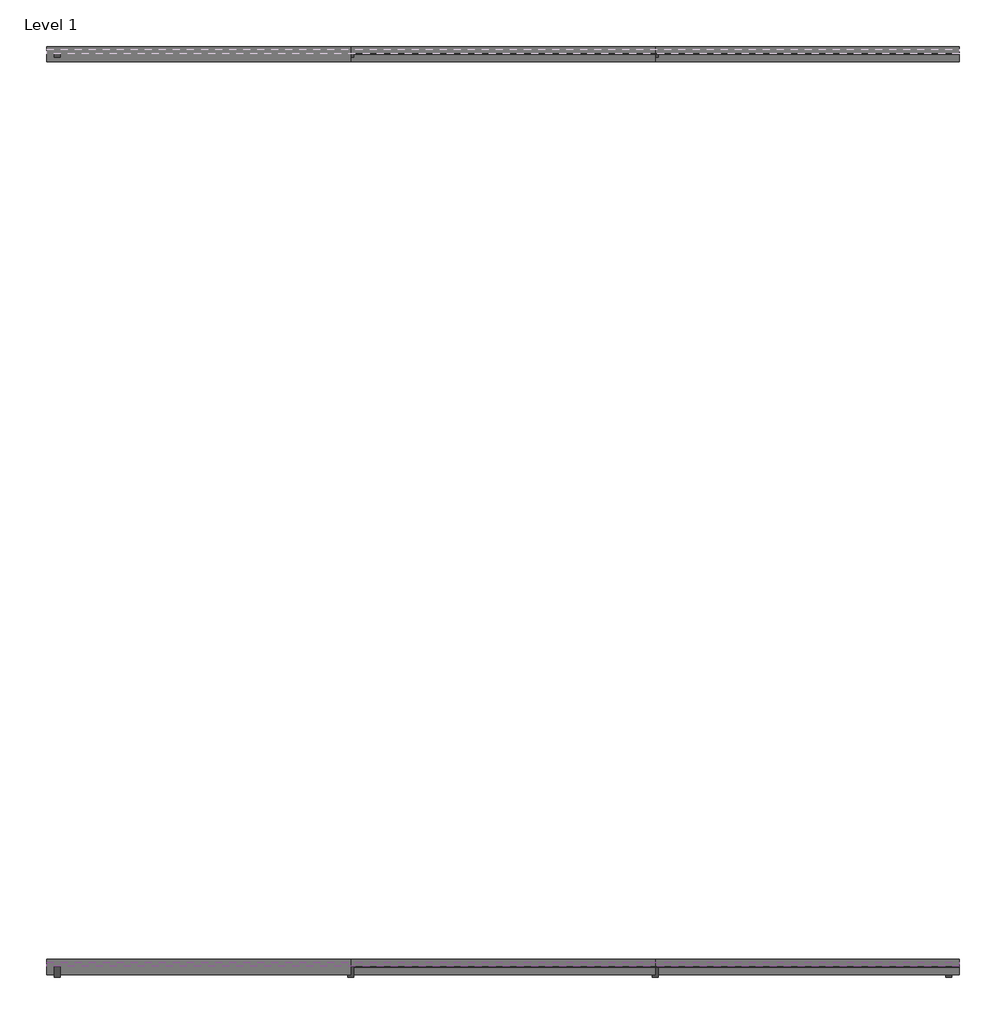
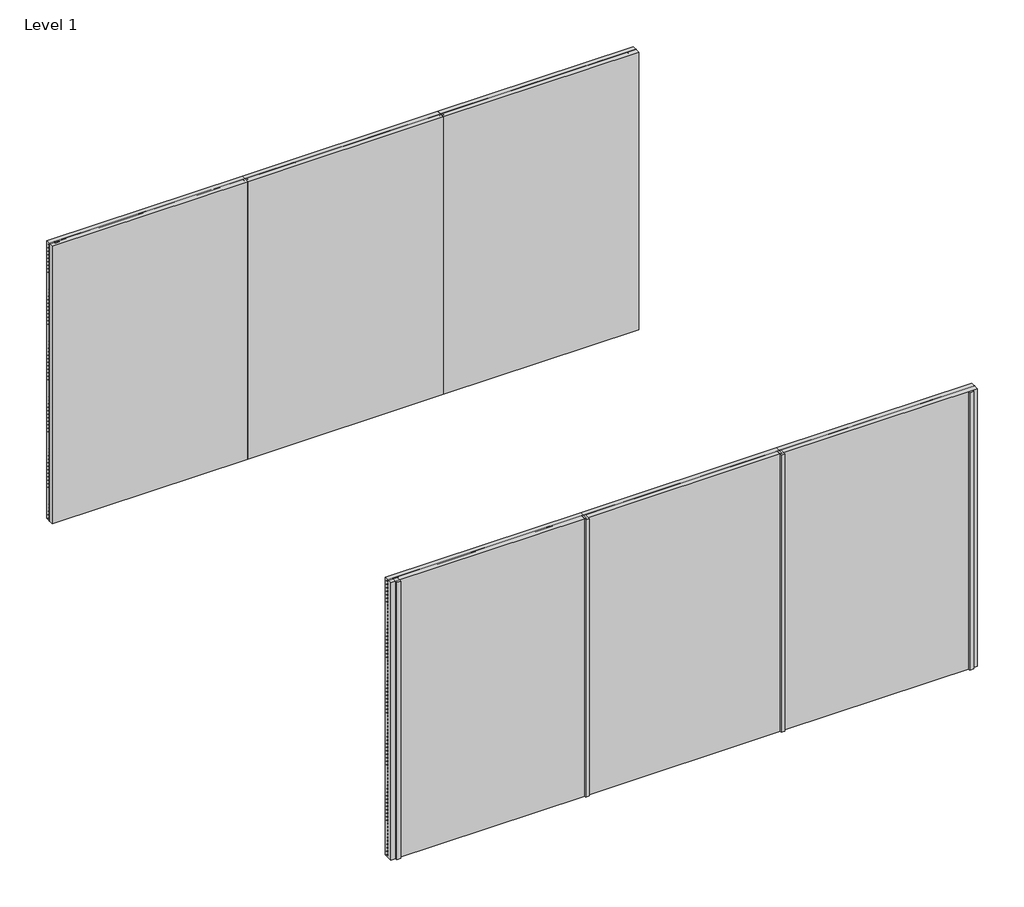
# One storey, part 1 of 2: 74 proxies, 8 members, 8 plates.
"""IFC4 building model written with IfcOpenShell, lengths in millimetres."""

import ifcopenshell
import ifcopenshell.guid

model = None  # the IFC model being written
_history = None  # IfcOwnerHistory: only IFC2X3 demands one
_inside = {}  # id of a spatial element -> (the spatial element, [elements in it])
_under = {}  # id of a project, library or spatial element -> (it, [spatial elements below it])
_declared = {}  # id of a project -> (the project, [libraries it declares])
_typed = {}  # id of a type object -> (the type object, [elements of that type])
_made_of = {}  # id of a material, layer set ... -> (it, [elements and type objects made of it])


def new_model(schema):
    """Start an empty IFC model of exactly this schema.

    Asked for "IFC4X3", IfcOpenShell would pick the latest addendum, in which some entities
    have other attributes; the version numbers below select the first issue.
    IFC2X3 requires an IfcOwnerHistory on every rooted entity: one is made here for all.
    """
    global model, _history
    if schema == "IFC4X3":
        model = ifcopenshell.file(schema_version=(4, 3, 0, 0))
    else:
        model = ifcopenshell.file(schema=schema)
    _inside.clear()
    _under.clear()
    _declared.clear()
    _typed.clear()
    _made_of.clear()
    _history = None
    if model.schema == "IFC2X3":
        org = make("IfcOrganization", Name="unknown")
        user = make(
            "IfcPersonAndOrganization",
            ThePerson=make("IfcPerson", FamilyName="unknown"),
            TheOrganization=org,
        )
        app = make(
            "IfcApplication",
            ApplicationDeveloper=org,
            Version="unknown",
            ApplicationFullName="unknown",
            ApplicationIdentifier="unknown",
        )
        _history = make(
            "IfcOwnerHistory",
            OwningUser=user,
            OwningApplication=app,
            ChangeAction="ADDED",
            CreationDate=0,
        )
    return model


def make(cls, **values):
    """One entity of the class cls with the attributes given. An attribute that is None is left unset."""
    return model.create_entity(
        cls, **{name: value for name, value in values.items() if value is not None}
    )


def rooted(cls, **values):
    """An entity with a GlobalId (a new one), such as an element, a storey or a relation."""
    return make(cls, GlobalId=ifcopenshell.guid.new(), OwnerHistory=_history, **values)


def si_unit(unit_type, name, prefix=None):
    """IfcSIUnit, for example si_unit("LENGTHUNIT", "METRE", prefix="MILLI")."""
    return make("IfcSIUnit", UnitType=unit_type, Prefix=prefix, Name=name)


def assignment(units):
    """IfcUnitAssignment: the units of a project."""
    return None if units is None else make("IfcUnitAssignment", Units=units)


def point(xyz):
    """IfcCartesianPoint."""
    return None if xyz is None else make("IfcCartesianPoint", Coordinates=xyz)


def direction(xyz):
    """IfcDirection."""
    return None if xyz is None else make("IfcDirection", DirectionRatios=xyz)


def frame(location, z_axis=None, x_axis=None):
    """IfcAxis2Placement3D, a coordinate frame: its origin and axes. An axis left out is left unset."""
    return make(
        "IfcAxis2Placement3D",
        Location=point(location),
        Axis=direction(z_axis),
        RefDirection=direction(x_axis),
    )


def origin():
    """The frame at (0, 0, 0) with its axes left unset."""
    return frame((0.0, 0.0, 0.0))


def origin_with_axes():
    """The frame at (0, 0, 0) with the z axis (0, 0, 1) and the x axis (1, 0, 0) written out."""
    return frame((0.0, 0.0, 0.0), z_axis=(0.0, 0.0, 1.0), x_axis=(1.0, 0.0, 0.0))


def place(relative_to, where):
    """IfcLocalPlacement: puts the frame where relative to a parent placement (None: the world)."""
    return make(
        "IfcLocalPlacement", PlacementRelTo=relative_to, RelativePlacement=where
    )


def context(
    kind, dimensions, precision=None, world=None, true_north=None, identifier=None
):
    """IfcGeometricRepresentationContext, for example the 3D "Model" context."""
    return make(
        "IfcGeometricRepresentationContext",
        ContextIdentifier=identifier,
        ContextType=kind,
        CoordinateSpaceDimension=dimensions,
        Precision=precision,
        WorldCoordinateSystem=world,
        TrueNorth=true_north,
    )


def project(units=None, contexts=None):
    """IfcProject with its units and contexts."""
    return rooted(
        "IfcProject",
        Name="project",
        RepresentationContexts=contexts,
        UnitsInContext=assignment(units),
    )


def spatial(cls, under=None, at=None, **own):
    """A site, building, storey or space (cls), placed at a placement, below another one or the project."""
    s = rooted(cls, ObjectPlacement=at, **own)
    if under is not None:
        _under.setdefault(under.id(), (under, []))[1].append(s)
    return s


def polyline(points):
    """IfcPolyline through the points."""
    return make("IfcPolyline", Points=[point(p) for p in points])


def outline(outer, holes=None, kind="AREA"):
    """IfcArbitraryClosedProfileDef: a profile drawn as a closed curve; with holes, ...WithVoids."""
    if holes is None:
        return make("IfcArbitraryClosedProfileDef", ProfileType=kind, OuterCurve=outer)
    return make(
        "IfcArbitraryProfileDefWithVoids",
        ProfileType=kind,
        OuterCurve=outer,
        InnerCurves=holes,
    )


def extrude(swept, where, along, depth):
    """IfcExtrudedAreaSolid: the profile swept, set in the frame where, extruded along a direction by depth."""
    return make(
        "IfcExtrudedAreaSolid",
        SweptArea=swept,
        Position=where,
        ExtrudedDirection=direction(along),
        Depth=depth,
    )


def shape(context_of_items, identifier, shape_type, items):
    """IfcShapeRepresentation: the items that make up one representation, for example the "Body"."""
    return make(
        "IfcShapeRepresentation",
        ContextOfItems=context_of_items,
        RepresentationIdentifier=identifier,
        RepresentationType=shape_type,
        Items=items,
    )


def source(mapping_origin, context_of_items, identifier, shape_type, items):
    """IfcRepresentationMap: a shape defined once, which mapped items show again and again."""
    return make(
        "IfcRepresentationMap",
        MappingOrigin=mapping_origin,
        MappedRepresentation=shape(context_of_items, identifier, shape_type, items),
    )


def transform(
    local_origin,
    x_axis=None,
    y_axis=None,
    z_axis=None,
    scale=None,
    scale2=None,
    scale3=None,
    uniform=True,
):
    """IfcCartesianTransformationOperator3D, or its non-uniform kind. x_axis, y_axis, z_axis: its Axis1, 2, 3."""
    if uniform:
        return make(
            "IfcCartesianTransformationOperator3D",
            Axis1=direction(x_axis),
            Axis2=direction(y_axis),
            LocalOrigin=point(local_origin),
            Scale=scale,
            Axis3=direction(z_axis),
        )
    return make(
        "IfcCartesianTransformationOperator3DnonUniform",
        Axis1=direction(x_axis),
        Axis2=direction(y_axis),
        LocalOrigin=point(local_origin),
        Scale=scale,
        Axis3=direction(z_axis),
        Scale2=scale2,
        Scale3=scale3,
    )


def mapped(mapping_source, mapping_target):
    """IfcMappedItem: shows the shape of a source again, moved by a transform."""
    return make(
        "IfcMappedItem", MappingSource=mapping_source, MappingTarget=mapping_target
    )


def made_of(thing, what):
    """Note that an element or type object is made of a material, layer set ...; save() writes the relation."""
    if what is not None:
        _made_of.setdefault(what.id(), (what, []))[1].append(thing)
    return thing


def element(
    cls,
    number,
    at=None,
    inside=None,
    cuts=None,
    type_object=None,
    material=None,
    context=None,
    identifier="Body",
    shape_type=None,
    held_by="IfcProductDefinitionShape",
    body=None,
    shapes=None,
    **own,
):
    """One element of the class cls, such as IfcWall. Its Tag is "e" and its number.

    at: its placement. inside: the storey or other place that contains it. cuts: it is an
    opening in that element (IfcRelVoidsElement). A single representation is given by context,
    identifier, shape_type and body (its items); several are given by shapes. held_by: the class
    of the entity that holds the representations. save() writes the other relations.
    """
    e = rooted(cls, Tag="e%d" % number, ObjectPlacement=at, **own)
    if body is not None:
        shapes = [shape(context, identifier, shape_type, body)]
    if shapes is not None:
        e.Representation = make(held_by, Representations=shapes)
    if inside is not None:
        _inside.setdefault(inside.id(), (inside, []))[1].append(e)
    if cuts is not None:
        rooted(
            "IfcRelVoidsElement", RelatingBuildingElement=cuts, RelatedOpeningElement=e
        )
    if type_object is not None:
        _typed.setdefault(type_object.id(), (type_object, []))[1].append(e)
    return made_of(e, material)


def aggregate(whole, parts):
    """IfcRelAggregates: a whole, such as a stair, and the parts it consists of."""
    return rooted("IfcRelAggregates", RelatingObject=whole, RelatedObjects=parts)


def save(model, path):
    """Write the relations noted so far, then the file.

    IfcRelAggregates (storeys below a building ...), IfcRelContainedInSpatialStructure (elements
    in a storey), IfcRelDefinesByType, IfcRelAssociatesMaterial and IfcRelDeclares: one each for
    every whole, place, type object, material and project.
    """
    for whole, parts in _under.values():
        aggregate(whole, parts)
    for where, things in _inside.values():
        rooted(
            "IfcRelContainedInSpatialStructure",
            RelatedElements=things,
            RelatingStructure=where,
        )
    for kind, things in _typed.values():
        rooted("IfcRelDefinesByType", RelatedObjects=things, RelatingType=kind)
    for what, things in _made_of.values():
        rooted("IfcRelAssociatesMaterial", RelatedObjects=things, RelatingMaterial=what)
    for by, libraries in _declared.values():
        rooted("IfcRelDeclares", RelatingContext=by, RelatedDefinitions=libraries)
    model.write(path)


def rectangular_mullion_e97d66ff(model_context):
    return source(origin(), model_context, "Body", "SweptSolid", [
        extrude(outline(polyline([(-50.0, 1.0), (-50.0, -20.0), (-90.0, -20.0), (-90.0, 1.0), (-50.0, 1.0)])), frame((0.0, 0.0, -3000.0), z_axis=(0.0, 0.0, 1.0), x_axis=(1.0, 0.0, 0.0)), (0.0, 0.0, 1.0), 3000.0),
    ])


def rectangular_mullion_d5966d96(model_context):
    return source(origin(), model_context, "Body", "SweptSolid", [
        extrude(outline(polyline([(-90.0, 1.0), (-50.0, 1.0), (-50.0, -20.0), (-90.0, -20.0), (-90.0, 1.0)])), frame((0.0, 0.0, -3000.0), z_axis=(0.0, 0.0, 1.0), x_axis=(1.0, 0.0, 0.0)), (0.0, 0.0, 1.0), 3000.0),
    ])


def rectangular_mullion_d1e4c811(model_context):
    return source(origin(), model_context, "Body", "SweptSolid", [
        extrude(outline(polyline([(-50.0, 1.0), (-50.0, -69.0), (-90.0, -69.0), (-90.0, 1.0), (-50.0, 1.0)])), frame((0.0, 0.0, -3000.0), z_axis=(0.0, 0.0, 1.0), x_axis=(1.0, 0.0, 0.0)), (0.0, 0.0, 1.0), 3000.0),
    ])


def rectangular_mullion_6c4a7dfa(model_context):
    return source(origin(), model_context, "Body", "SweptSolid", [
        extrude(outline(polyline([(-90.0, 1.0), (-50.0, 1.0), (-50.0, -69.0), (-90.0, -69.0), (-90.0, 1.0)])), frame((0.0, 0.0, -3000.0), z_axis=(0.0, 0.0, 1.0), x_axis=(1.0, 0.0, 0.0)), (0.0, 0.0, 1.0), 3000.0),
    ])


def rectangular_mullion_a4a4ad38(model_context):
    return source(origin(), model_context, "Body", "SweptSolid", [
        extrude(outline(polyline([(20.0, 1.0), (20.0, -20.0), (-20.0, -20.0), (-20.0, 1.0), (20.0, 1.0)])), frame((0.0, 0.0, -3000.0), z_axis=(0.0, 0.0, 1.0), x_axis=(1.0, 0.0, 0.0)), (0.0, 0.0, 1.0), 3000.0),
    ])


def rectangular_mullion_49e1a669(model_context):
    return source(origin(), model_context, "Body", "SweptSolid", [
        extrude(outline(polyline([(20.0, 1.0), (20.0, -69.0), (-20.0, -69.0), (-20.0, 1.0), (20.0, 1.0)])), frame((0.0, 0.0, -3000.0), z_axis=(0.0, 0.0, 1.0), x_axis=(1.0, 0.0, 0.0)), (0.0, 0.0, 1.0), 3000.0),
    ])


def empty_system_panel_empty_24b1c33f(model_context):
    return source(origin(), model_context, "Body", "SweptSolid", [
        extrude(outline(polyline([(1000.0, -50.0), (-1000.0, -50.0), (-1000.0, 50.0), (1000.0, 50.0), (1000.0, -50.0)])), origin_with_axes(), (0.0, 0.0, 1.0), 3000.0),
    ])


model = new_model("IFC4")

# Units and contexts
model_context = context("Model", 3, world=origin())
ifc_project = project(units=[si_unit("LENGTHUNIT", "METRE", prefix="MILLI")], contexts=[model_context])

# Site, building, storey
site = spatial("IfcSite", under=ifc_project)
building = spatial("IfcBuilding", under=site)
storey = spatial("IfcBuildingStorey", under=building, Name="Level 1", Elevation=0.0)

# Proxies
placement = place(None, origin())
element("IfcBuildingElementProxy", 1, Name="Wall Sweeps", at=placement, inside=storey, context=model_context, shape_type="SweptSolid", body=[
    extrude(outline(polyline([(-7995.0, 3000.0), (-7995.0, 2991.5372214), (-7969.0, 2974.0), (-7969.0, 2961.0), (-7997.0, 2979.8862385), (-7997.0, 3000.0), (-7995.0, 3000.0)])), frame((0.0, 0.0, 0.0), z_axis=(1.0, 0.0, 0.0), x_axis=(0.0, 1.0, 0.0)), (0.0, 0.0, 1.0), 6000.0),
])
element("IfcBuildingElementProxy", 2, Name="Wall Sweeps", at=placement, inside=storey, context=model_context, shape_type="SweptSolid", body=[
    extrude(outline(polyline([(-7995.0, 2962.5), (-7995.0, 2954.0372214), (-7969.0, 2936.5), (-7969.0, 2923.5), (-7997.0, 2942.3862385), (-7997.0, 2962.5), (-7995.0, 2962.5)])), frame((0.0, 0.0, 0.0), z_axis=(1.0, 0.0, 0.0), x_axis=(0.0, 1.0, 0.0)), (0.0, 0.0, 1.0), 6000.0),
])
element("IfcBuildingElementProxy", 3, Name="Wall Sweeps", at=placement, inside=storey, context=model_context, shape_type="SweptSolid", body=[
    extrude(outline(polyline([(-7995.0, 2925.0), (-7995.0, 2916.5372214), (-7969.0, 2899.0), (-7969.0, 2886.0), (-7997.0, 2904.8862385), (-7997.0, 2925.0), (-7995.0, 2925.0)])), frame((0.0, 0.0, 0.0), z_axis=(1.0, 0.0, 0.0), x_axis=(0.0, 1.0, 0.0)), (0.0, 0.0, 1.0), 6000.0),
])
element("IfcBuildingElementProxy", 4, Name="Wall Sweeps", at=placement, inside=storey, context=model_context, shape_type="SweptSolid", body=[
    extrude(outline(polyline([(-7995.0, 2887.5), (-7995.0, 2879.0372214), (-7969.0, 2861.5), (-7969.0, 2848.5), (-7997.0, 2867.3862385), (-7997.0, 2887.5), (-7995.0, 2887.5)])), frame((0.0, 0.0, 0.0), z_axis=(1.0, 0.0, 0.0), x_axis=(0.0, 1.0, 0.0)), (0.0, 0.0, 1.0), 6000.0),
])
element("IfcBuildingElementProxy", 5, Name="Wall Sweeps", at=placement, inside=storey, context=model_context, shape_type="SweptSolid", body=[
    extrude(outline(polyline([(-7995.0, 2850.0), (-7995.0, 2841.5372214), (-7969.0, 2824.0), (-7969.0, 2811.0), (-7997.0, 2829.8862385), (-7997.0, 2850.0), (-7995.0, 2850.0)])), frame((0.0, 0.0, 0.0), z_axis=(1.0, 0.0, 0.0), x_axis=(0.0, 1.0, 0.0)), (0.0, 0.0, 1.0), 6000.0),
])
element("IfcBuildingElementProxy", 6, Name="Wall Sweeps", at=placement, inside=storey, context=model_context, shape_type="SweptSolid", body=[
    extrude(outline(polyline([(-7995.0, 2812.5), (-7995.0, 2804.0372214), (-7969.0, 2786.5), (-7969.0, 2773.5), (-7997.0, 2792.3862385), (-7997.0, 2812.5), (-7995.0, 2812.5)])), frame((0.0, 0.0, 0.0), z_axis=(1.0, 0.0, 0.0), x_axis=(0.0, 1.0, 0.0)), (0.0, 0.0, 1.0), 6000.0),
])
element("IfcBuildingElementProxy", 7, Name="Wall Sweeps", at=placement, inside=storey, context=model_context, shape_type="SweptSolid", body=[
    extrude(outline(polyline([(-7995.0, 2775.0), (-7995.0, 2766.5372214), (-7969.0, 2749.0), (-7969.0, 2736.0), (-7997.0, 2754.8862385), (-7997.0, 2775.0), (-7995.0, 2775.0)])), frame((0.0, 0.0, 0.0), z_axis=(1.0, 0.0, 0.0), x_axis=(0.0, 1.0, 0.0)), (0.0, 0.0, 1.0), 6000.0),
])
element("IfcBuildingElementProxy", 8, Name="Wall Sweeps", at=placement, inside=storey, context=model_context, shape_type="SweptSolid", body=[
    extrude(outline(polyline([(-7995.0, 2737.5), (-7995.0, 2729.0372214), (-7969.0, 2711.5), (-7969.0, 2698.5), (-7997.0, 2717.3862385), (-7997.0, 2737.5), (-7995.0, 2737.5)])), frame((0.0, 0.0, 0.0), z_axis=(1.0, 0.0, 0.0), x_axis=(0.0, 1.0, 0.0)), (0.0, 0.0, 1.0), 6000.0),
])
element("IfcBuildingElementProxy", 9, Name="Wall Sweeps", at=placement, inside=storey, context=model_context, shape_type="SweptSolid", body=[
    extrude(outline(polyline([(-7995.0, 2700.0), (-7995.0, 2691.5372214), (-7969.0, 2674.0), (-7969.0, 2661.0), (-7997.0, 2679.8862385), (-7997.0, 2700.0), (-7995.0, 2700.0)])), frame((0.0, 0.0, 0.0), z_axis=(1.0, 0.0, 0.0), x_axis=(0.0, 1.0, 0.0)), (0.0, 0.0, 1.0), 6000.0),
])
element("IfcBuildingElementProxy", 10, Name="Wall Sweeps", at=placement, inside=storey, context=model_context, shape_type="SweptSolid", body=[
    extrude(outline(polyline([(-7995.0, 2662.5), (-7995.0, 2654.0372214), (-7969.0, 2636.5), (-7969.0, 2623.5), (-7997.0, 2642.3862385), (-7997.0, 2662.5), (-7995.0, 2662.5)])), frame((0.0, 0.0, 0.0), z_axis=(1.0, 0.0, 0.0), x_axis=(0.0, 1.0, 0.0)), (0.0, 0.0, 1.0), 6000.0),
])
element("IfcBuildingElementProxy", 11, Name="Wall Sweeps", at=placement, inside=storey, context=model_context, shape_type="SweptSolid", body=[
    extrude(outline(polyline([(-7995.0, 2625.0), (-7995.0, 2616.5372214), (-7969.0, 2599.0), (-7969.0, 2586.0), (-7997.0, 2604.8862385), (-7997.0, 2625.0), (-7995.0, 2625.0)])), frame((0.0, 0.0, 0.0), z_axis=(1.0, 0.0, 0.0), x_axis=(0.0, 1.0, 0.0)), (0.0, 0.0, 1.0), 6000.0),
])
element("IfcBuildingElementProxy", 12, Name="Wall Sweeps", at=placement, inside=storey, context=model_context, shape_type="SweptSolid", body=[
    extrude(outline(polyline([(-7995.0, 2587.5), (-7995.0, 2579.0372214), (-7969.0, 2561.5), (-7969.0, 2548.5), (-7997.0, 2567.3862385), (-7997.0, 2587.5), (-7995.0, 2587.5)])), frame((0.0, 0.0, 0.0), z_axis=(1.0, 0.0, 0.0), x_axis=(0.0, 1.0, 0.0)), (0.0, 0.0, 1.0), 6000.0),
])
element("IfcBuildingElementProxy", 13, Name="Wall Sweeps", at=placement, inside=storey, context=model_context, shape_type="SweptSolid", body=[
    extrude(outline(polyline([(-7995.0, 2550.0), (-7995.0, 2541.5372214), (-7969.0, 2524.0), (-7969.0, 2511.0), (-7997.0, 2529.8862385), (-7997.0, 2550.0), (-7995.0, 2550.0)])), frame((0.0, 0.0, 0.0), z_axis=(1.0, 0.0, 0.0), x_axis=(0.0, 1.0, 0.0)), (0.0, 0.0, 1.0), 6000.0),
])
element("IfcBuildingElementProxy", 14, Name="Wall Sweeps", at=placement, inside=storey, context=model_context, shape_type="SweptSolid", body=[
    extrude(outline(polyline([(-7995.0, 2512.5), (-7995.0, 2504.0372214), (-7969.0, 2486.5), (-7969.0, 2473.5), (-7997.0, 2492.3862385), (-7997.0, 2512.5), (-7995.0, 2512.5)])), frame((0.0, 0.0, 0.0), z_axis=(1.0, 0.0, 0.0), x_axis=(0.0, 1.0, 0.0)), (0.0, 0.0, 1.0), 6000.0),
])
element("IfcBuildingElementProxy", 15, Name="Wall Sweeps", at=placement, inside=storey, context=model_context, shape_type="SweptSolid", body=[
    extrude(outline(polyline([(-7995.0, 2475.0), (-7995.0, 2466.5372214), (-7969.0, 2449.0), (-7969.0, 2436.0), (-7997.0, 2454.8862385), (-7997.0, 2475.0), (-7995.0, 2475.0)])), frame((0.0, 0.0, 0.0), z_axis=(1.0, 0.0, 0.0), x_axis=(0.0, 1.0, 0.0)), (0.0, 0.0, 1.0), 6000.0),
])
element("IfcBuildingElementProxy", 16, Name="Wall Sweeps", at=placement, inside=storey, context=model_context, shape_type="SweptSolid", body=[
    extrude(outline(polyline([(-7995.0, 2437.5), (-7995.0, 2429.0372214), (-7969.0, 2411.5), (-7969.0, 2398.5), (-7997.0, 2417.3862385), (-7997.0, 2437.5), (-7995.0, 2437.5)])), frame((0.0, 0.0, 0.0), z_axis=(1.0, 0.0, 0.0), x_axis=(0.0, 1.0, 0.0)), (0.0, 0.0, 1.0), 6000.0),
])
element("IfcBuildingElementProxy", 17, Name="Wall Sweeps", at=placement, inside=storey, context=model_context, shape_type="SweptSolid", body=[
    extrude(outline(polyline([(-7995.0, 2400.0), (-7995.0, 2391.5372214), (-7969.0, 2374.0), (-7969.0, 2361.0), (-7997.0, 2379.8862385), (-7997.0, 2400.0), (-7995.0, 2400.0)])), frame((0.0, 0.0, 0.0), z_axis=(1.0, 0.0, 0.0), x_axis=(0.0, 1.0, 0.0)), (0.0, 0.0, 1.0), 6000.0),
])
element("IfcBuildingElementProxy", 18, Name="Wall Sweeps", at=placement, inside=storey, context=model_context, shape_type="SweptSolid", body=[
    extrude(outline(polyline([(-7995.0, 2362.5), (-7995.0, 2354.0372214), (-7969.0, 2336.5), (-7969.0, 2323.5), (-7997.0, 2342.3862385), (-7997.0, 2362.5), (-7995.0, 2362.5)])), frame((0.0, 0.0, 0.0), z_axis=(1.0, 0.0, 0.0), x_axis=(0.0, 1.0, 0.0)), (0.0, 0.0, 1.0), 6000.0),
])
element("IfcBuildingElementProxy", 19, Name="Wall Sweeps", at=placement, inside=storey, context=model_context, shape_type="SweptSolid", body=[
    extrude(outline(polyline([(-7995.0, 2325.0), (-7995.0, 2316.5372214), (-7969.0, 2299.0), (-7969.0, 2286.0), (-7997.0, 2304.8862385), (-7997.0, 2325.0), (-7995.0, 2325.0)])), frame((0.0, 0.0, 0.0), z_axis=(1.0, 0.0, 0.0), x_axis=(0.0, 1.0, 0.0)), (0.0, 0.0, 1.0), 6000.0),
])
element("IfcBuildingElementProxy", 20, Name="Wall Sweeps", at=placement, inside=storey, context=model_context, shape_type="SweptSolid", body=[
    extrude(outline(polyline([(-7995.0, 2287.5), (-7995.0, 2279.0372214), (-7969.0, 2261.5), (-7969.0, 2248.5), (-7997.0, 2267.3862385), (-7997.0, 2287.5), (-7995.0, 2287.5)])), frame((0.0, 0.0, 0.0), z_axis=(1.0, 0.0, 0.0), x_axis=(0.0, 1.0, 0.0)), (0.0, 0.0, 1.0), 6000.0),
])
element("IfcBuildingElementProxy", 21, Name="Wall Sweeps", at=placement, inside=storey, context=model_context, shape_type="SweptSolid", body=[
    extrude(outline(polyline([(-7995.0, 2250.0), (-7995.0, 2241.5372214), (-7969.0, 2224.0), (-7969.0, 2211.0), (-7997.0, 2229.8862385), (-7997.0, 2250.0), (-7995.0, 2250.0)])), frame((0.0, 0.0, 0.0), z_axis=(1.0, 0.0, 0.0), x_axis=(0.0, 1.0, 0.0)), (0.0, 0.0, 1.0), 6000.0),
])
element("IfcBuildingElementProxy", 22, Name="Wall Sweeps", at=placement, inside=storey, context=model_context, shape_type="SweptSolid", body=[
    extrude(outline(polyline([(-7995.0, 2212.5), (-7995.0, 2204.0372214), (-7969.0, 2186.5), (-7969.0, 2173.5), (-7997.0, 2192.3862385), (-7997.0, 2212.5), (-7995.0, 2212.5)])), frame((0.0, 0.0, 0.0), z_axis=(1.0, 0.0, 0.0), x_axis=(0.0, 1.0, 0.0)), (0.0, 0.0, 1.0), 6000.0),
])
element("IfcBuildingElementProxy", 23, Name="Wall Sweeps", at=placement, inside=storey, context=model_context, shape_type="SweptSolid", body=[
    extrude(outline(polyline([(-7995.0, 2175.0), (-7995.0, 2166.5372214), (-7969.0, 2149.0), (-7969.0, 2136.0), (-7997.0, 2154.8862385), (-7997.0, 2175.0), (-7995.0, 2175.0)])), frame((0.0, 0.0, 0.0), z_axis=(1.0, 0.0, 0.0), x_axis=(0.0, 1.0, 0.0)), (0.0, 0.0, 1.0), 6000.0),
])
element("IfcBuildingElementProxy", 24, Name="Wall Sweeps", at=placement, inside=storey, context=model_context, shape_type="SweptSolid", body=[
    extrude(outline(polyline([(-7995.0, 2137.5), (-7995.0, 2129.0372214), (-7969.0, 2111.5), (-7969.0, 2098.5), (-7997.0, 2117.3862385), (-7997.0, 2137.5), (-7995.0, 2137.5)])), frame((0.0, 0.0, 0.0), z_axis=(1.0, 0.0, 0.0), x_axis=(0.0, 1.0, 0.0)), (0.0, 0.0, 1.0), 6000.0),
])
element("IfcBuildingElementProxy", 25, Name="Wall Sweeps", at=placement, inside=storey, context=model_context, shape_type="SweptSolid", body=[
    extrude(outline(polyline([(-7995.0, 2100.0), (-7995.0, 2091.5372214), (-7969.0, 2074.0), (-7969.0, 2061.0), (-7997.0, 2079.8862385), (-7997.0, 2100.0), (-7995.0, 2100.0)])), frame((0.0, 0.0, 0.0), z_axis=(1.0, 0.0, 0.0), x_axis=(0.0, 1.0, 0.0)), (0.0, 0.0, 1.0), 6000.0),
])
element("IfcBuildingElementProxy", 26, Name="Wall Sweeps", at=placement, inside=storey, context=model_context, shape_type="SweptSolid", body=[
    extrude(outline(polyline([(-7995.0, 2062.5), (-7995.0, 2054.0372214), (-7969.0, 2036.5), (-7969.0, 2023.5), (-7997.0, 2042.3862385), (-7997.0, 2062.5), (-7995.0, 2062.5)])), frame((0.0, 0.0, 0.0), z_axis=(1.0, 0.0, 0.0), x_axis=(0.0, 1.0, 0.0)), (0.0, 0.0, 1.0), 6000.0),
])
element("IfcBuildingElementProxy", 27, Name="Wall Sweeps", at=placement, inside=storey, context=model_context, shape_type="SweptSolid", body=[
    extrude(outline(polyline([(-7995.0, 2025.0), (-7995.0, 2016.5372214), (-7969.0, 1999.0), (-7969.0, 1986.0), (-7997.0, 2004.8862385), (-7997.0, 2025.0), (-7995.0, 2025.0)])), frame((0.0, 0.0, 0.0), z_axis=(1.0, 0.0, 0.0), x_axis=(0.0, 1.0, 0.0)), (0.0, 0.0, 1.0), 6000.0),
])
element("IfcBuildingElementProxy", 28, Name="Wall Sweeps", at=placement, inside=storey, context=model_context, shape_type="SweptSolid", body=[
    extrude(outline(polyline([(-7995.0, 1987.5), (-7995.0, 1979.0372214), (-7969.0, 1961.5), (-7969.0, 1948.5), (-7997.0, 1967.3862385), (-7997.0, 1987.5), (-7995.0, 1987.5)])), frame((0.0, 0.0, 0.0), z_axis=(1.0, 0.0, 0.0), x_axis=(0.0, 1.0, 0.0)), (0.0, 0.0, 1.0), 6000.0),
])
element("IfcBuildingElementProxy", 29, Name="Wall Sweeps", at=placement, inside=storey, context=model_context, shape_type="SweptSolid", body=[
    extrude(outline(polyline([(-7995.0, 1950.0), (-7995.0, 1941.5372214), (-7969.0, 1924.0), (-7969.0, 1911.0), (-7997.0, 1929.8862385), (-7997.0, 1950.0), (-7995.0, 1950.0)])), frame((0.0, 0.0, 0.0), z_axis=(1.0, 0.0, 0.0), x_axis=(0.0, 1.0, 0.0)), (0.0, 0.0, 1.0), 6000.0),
])
element("IfcBuildingElementProxy", 30, Name="Wall Sweeps", at=placement, inside=storey, context=model_context, shape_type="SweptSolid", body=[
    extrude(outline(polyline([(-7995.0, 1912.5), (-7995.0, 1904.0372214), (-7969.0, 1886.5), (-7969.0, 1873.5), (-7997.0, 1892.3862385), (-7997.0, 1912.5), (-7995.0, 1912.5)])), frame((0.0, 0.0, 0.0), z_axis=(1.0, 0.0, 0.0), x_axis=(0.0, 1.0, 0.0)), (0.0, 0.0, 1.0), 6000.0),
])
element("IfcBuildingElementProxy", 31, Name="Wall Sweeps", at=placement, inside=storey, context=model_context, shape_type="SweptSolid", body=[
    extrude(outline(polyline([(-7995.0, 1875.0), (-7995.0, 1866.5372214), (-7969.0, 1849.0), (-7969.0, 1836.0), (-7997.0, 1854.8862385), (-7997.0, 1875.0), (-7995.0, 1875.0)])), frame((0.0, 0.0, 0.0), z_axis=(1.0, 0.0, 0.0), x_axis=(0.0, 1.0, 0.0)), (0.0, 0.0, 1.0), 6000.0),
])
element("IfcBuildingElementProxy", 32, Name="Wall Sweeps", at=placement, inside=storey, context=model_context, shape_type="SweptSolid", body=[
    extrude(outline(polyline([(-7995.0, 1837.5), (-7995.0, 1829.0372214), (-7969.0, 1811.5), (-7969.0, 1798.5), (-7997.0, 1817.3862385), (-7997.0, 1837.5), (-7995.0, 1837.5)])), frame((0.0, 0.0, 0.0), z_axis=(1.0, 0.0, 0.0), x_axis=(0.0, 1.0, 0.0)), (0.0, 0.0, 1.0), 6000.0),
])
element("IfcBuildingElementProxy", 33, Name="Wall Sweeps", at=placement, inside=storey, context=model_context, shape_type="SweptSolid", body=[
    extrude(outline(polyline([(-7995.0, 1800.0), (-7995.0, 1791.5372214), (-7969.0, 1774.0), (-7969.0, 1761.0), (-7997.0, 1779.8862385), (-7997.0, 1800.0), (-7995.0, 1800.0)])), frame((0.0, 0.0, 0.0), z_axis=(1.0, 0.0, 0.0), x_axis=(0.0, 1.0, 0.0)), (0.0, 0.0, 1.0), 6000.0),
])
element("IfcBuildingElementProxy", 34, Name="Wall Sweeps", at=placement, inside=storey, context=model_context, shape_type="SweptSolid", body=[
    extrude(outline(polyline([(-7995.0, 1762.5), (-7995.0, 1754.0372214), (-7969.0, 1736.5), (-7969.0, 1723.5), (-7997.0, 1742.3862385), (-7997.0, 1762.5), (-7995.0, 1762.5)])), frame((0.0, 0.0, 0.0), z_axis=(1.0, 0.0, 0.0), x_axis=(0.0, 1.0, 0.0)), (0.0, 0.0, 1.0), 6000.0),
])
element("IfcBuildingElementProxy", 35, Name="Wall Sweeps", at=placement, inside=storey, context=model_context, shape_type="SweptSolid", body=[
    extrude(outline(polyline([(-7995.0, 1725.0), (-7995.0, 1716.5372214), (-7969.0, 1699.0), (-7969.0, 1686.0), (-7997.0, 1704.8862385), (-7997.0, 1725.0), (-7995.0, 1725.0)])), frame((0.0, 0.0, 0.0), z_axis=(1.0, 0.0, 0.0), x_axis=(0.0, 1.0, 0.0)), (0.0, 0.0, 1.0), 6000.0),
])
element("IfcBuildingElementProxy", 36, Name="Wall Sweeps", at=placement, inside=storey, context=model_context, shape_type="SweptSolid", body=[
    extrude(outline(polyline([(-7995.0, 1687.5), (-7995.0, 1679.0372214), (-7969.0, 1661.5), (-7969.0, 1648.5), (-7997.0, 1667.3862385), (-7997.0, 1687.5), (-7995.0, 1687.5)])), frame((0.0, 0.0, 0.0), z_axis=(1.0, 0.0, 0.0), x_axis=(0.0, 1.0, 0.0)), (0.0, 0.0, 1.0), 6000.0),
])
element("IfcBuildingElementProxy", 37, Name="Wall Sweeps", at=placement, inside=storey, context=model_context, shape_type="SweptSolid", body=[
    extrude(outline(polyline([(-7995.0, 1650.0), (-7995.0, 1641.5372214), (-7969.0, 1624.0), (-7969.0, 1611.0), (-7997.0, 1629.8862385), (-7997.0, 1650.0), (-7995.0, 1650.0)])), frame((0.0, 0.0, 0.0), z_axis=(1.0, 0.0, 0.0), x_axis=(0.0, 1.0, 0.0)), (0.0, 0.0, 1.0), 6000.0),
])
element("IfcBuildingElementProxy", 38, Name="Wall Sweeps", at=placement, inside=storey, context=model_context, shape_type="SweptSolid", body=[
    extrude(outline(polyline([(-7995.0, 1612.5), (-7995.0, 1604.0372214), (-7969.0, 1586.5), (-7969.0, 1573.5), (-7997.0, 1592.3862385), (-7997.0, 1612.5), (-7995.0, 1612.5)])), frame((0.0, 0.0, 0.0), z_axis=(1.0, 0.0, 0.0), x_axis=(0.0, 1.0, 0.0)), (0.0, 0.0, 1.0), 6000.0),
])
element("IfcBuildingElementProxy", 39, Name="Wall Sweeps", at=placement, inside=storey, context=model_context, shape_type="SweptSolid", body=[
    extrude(outline(polyline([(-7995.0, 1575.0), (-7995.0, 1566.5372214), (-7969.0, 1549.0), (-7969.0, 1536.0), (-7997.0, 1554.8862385), (-7997.0, 1575.0), (-7995.0, 1575.0)])), frame((0.0, 0.0, 0.0), z_axis=(1.0, 0.0, 0.0), x_axis=(0.0, 1.0, 0.0)), (0.0, 0.0, 1.0), 6000.0),
])
element("IfcBuildingElementProxy", 40, Name="Wall Sweeps", at=placement, inside=storey, context=model_context, shape_type="SweptSolid", body=[
    extrude(outline(polyline([(-7995.0, 1537.5), (-7995.0, 1529.0372214), (-7969.0, 1511.5), (-7969.0, 1498.5), (-7997.0, 1517.3862385), (-7997.0, 1537.5), (-7995.0, 1537.5)])), frame((0.0, 0.0, 0.0), z_axis=(1.0, 0.0, 0.0), x_axis=(0.0, 1.0, 0.0)), (0.0, 0.0, 1.0), 6000.0),
])
element("IfcBuildingElementProxy", 41, Name="Wall Sweeps", at=placement, inside=storey, context=model_context, shape_type="SweptSolid", body=[
    extrude(outline(polyline([(-7995.0, 1500.0), (-7995.0, 1491.5372214), (-7969.0, 1474.0), (-7969.0, 1461.0), (-7997.0, 1479.8862385), (-7997.0, 1500.0), (-7995.0, 1500.0)])), frame((0.0, 0.0, 0.0), z_axis=(1.0, 0.0, 0.0), x_axis=(0.0, 1.0, 0.0)), (0.0, 0.0, 1.0), 6000.0),
])
element("IfcBuildingElementProxy", 42, Name="Wall Sweeps", at=placement, inside=storey, context=model_context, shape_type="SweptSolid", body=[
    extrude(outline(polyline([(-7995.0, 1462.5), (-7995.0, 1454.0372214), (-7969.0, 1436.5), (-7969.0, 1423.5), (-7997.0, 1442.3862385), (-7997.0, 1462.5), (-7995.0, 1462.5)])), frame((0.0, 0.0, 0.0), z_axis=(1.0, 0.0, 0.0), x_axis=(0.0, 1.0, 0.0)), (0.0, 0.0, 1.0), 6000.0),
])
element("IfcBuildingElementProxy", 43, Name="Wall Sweeps", at=placement, inside=storey, context=model_context, shape_type="SweptSolid", body=[
    extrude(outline(polyline([(-7995.0, 1425.0), (-7995.0, 1416.5372214), (-7969.0, 1399.0), (-7969.0, 1386.0), (-7997.0, 1404.8862385), (-7997.0, 1425.0), (-7995.0, 1425.0)])), frame((0.0, 0.0, 0.0), z_axis=(1.0, 0.0, 0.0), x_axis=(0.0, 1.0, 0.0)), (0.0, 0.0, 1.0), 6000.0),
])
element("IfcBuildingElementProxy", 44, Name="Wall Sweeps", at=placement, inside=storey, context=model_context, shape_type="SweptSolid", body=[
    extrude(outline(polyline([(-7995.0, 1387.5), (-7995.0, 1379.0372214), (-7969.0, 1361.5), (-7969.0, 1348.5), (-7997.0, 1367.3862385), (-7997.0, 1387.5), (-7995.0, 1387.5)])), frame((0.0, 0.0, 0.0), z_axis=(1.0, 0.0, 0.0), x_axis=(0.0, 1.0, 0.0)), (0.0, 0.0, 1.0), 6000.0),
])
element("IfcBuildingElementProxy", 45, Name="Wall Sweeps", at=placement, inside=storey, context=model_context, shape_type="SweptSolid", body=[
    extrude(outline(polyline([(-7995.0, 1350.0), (-7995.0, 1341.5372214), (-7969.0, 1324.0), (-7969.0, 1311.0), (-7997.0, 1329.8862385), (-7997.0, 1350.0), (-7995.0, 1350.0)])), frame((0.0, 0.0, 0.0), z_axis=(1.0, 0.0, 0.0), x_axis=(0.0, 1.0, 0.0)), (0.0, 0.0, 1.0), 6000.0),
])
element("IfcBuildingElementProxy", 46, Name="Wall Sweeps", at=placement, inside=storey, context=model_context, shape_type="SweptSolid", body=[
    extrude(outline(polyline([(-7995.0, 1312.5), (-7995.0, 1304.0372214), (-7969.0, 1286.5), (-7969.0, 1273.5), (-7997.0, 1292.3862385), (-7997.0, 1312.5), (-7995.0, 1312.5)])), frame((0.0, 0.0, 0.0), z_axis=(1.0, 0.0, 0.0), x_axis=(0.0, 1.0, 0.0)), (0.0, 0.0, 1.0), 6000.0),
])
element("IfcBuildingElementProxy", 47, Name="Wall Sweeps", at=placement, inside=storey, context=model_context, shape_type="SweptSolid", body=[
    extrude(outline(polyline([(-7995.0, 1275.0), (-7995.0, 1266.5372214), (-7969.0, 1249.0), (-7969.0, 1236.0), (-7997.0, 1254.8862385), (-7997.0, 1275.0), (-7995.0, 1275.0)])), frame((0.0, 0.0, 0.0), z_axis=(1.0, 0.0, 0.0), x_axis=(0.0, 1.0, 0.0)), (0.0, 0.0, 1.0), 6000.0),
])
element("IfcBuildingElementProxy", 48, Name="Wall Sweeps", at=placement, inside=storey, context=model_context, shape_type="SweptSolid", body=[
    extrude(outline(polyline([(-7995.0, 1237.5), (-7995.0, 1229.0372214), (-7969.0, 1211.5), (-7969.0, 1198.5), (-7997.0, 1217.3862385), (-7997.0, 1237.5), (-7995.0, 1237.5)])), frame((0.0, 0.0, 0.0), z_axis=(1.0, 0.0, 0.0), x_axis=(0.0, 1.0, 0.0)), (0.0, 0.0, 1.0), 6000.0),
])
element("IfcBuildingElementProxy", 49, Name="Wall Sweeps", at=placement, inside=storey, context=model_context, shape_type="SweptSolid", body=[
    extrude(outline(polyline([(-7995.0, 1200.0), (-7995.0, 1191.5372214), (-7969.0, 1174.0), (-7969.0, 1161.0), (-7997.0, 1179.8862385), (-7997.0, 1200.0), (-7995.0, 1200.0)])), frame((0.0, 0.0, 0.0), z_axis=(1.0, 0.0, 0.0), x_axis=(0.0, 1.0, 0.0)), (0.0, 0.0, 1.0), 6000.0),
])
element("IfcBuildingElementProxy", 50, Name="Wall Sweeps", at=placement, inside=storey, context=model_context, shape_type="SweptSolid", body=[
    extrude(outline(polyline([(-7995.0, 1162.5), (-7995.0, 1154.0372214), (-7969.0, 1136.5), (-7969.0, 1123.5), (-7997.0, 1142.3862385), (-7997.0, 1162.5), (-7995.0, 1162.5)])), frame((0.0, 0.0, 0.0), z_axis=(1.0, 0.0, 0.0), x_axis=(0.0, 1.0, 0.0)), (0.0, 0.0, 1.0), 6000.0),
])
element("IfcBuildingElementProxy", 51, Name="Wall Sweeps", at=placement, inside=storey, context=model_context, shape_type="SweptSolid", body=[
    extrude(outline(polyline([(-7995.0, 1125.0), (-7995.0, 1116.5372214), (-7969.0, 1099.0), (-7969.0, 1086.0), (-7997.0, 1104.8862385), (-7997.0, 1125.0), (-7995.0, 1125.0)])), frame((0.0, 0.0, 0.0), z_axis=(1.0, 0.0, 0.0), x_axis=(0.0, 1.0, 0.0)), (0.0, 0.0, 1.0), 6000.0),
])
element("IfcBuildingElementProxy", 52, Name="Wall Sweeps", at=placement, inside=storey, context=model_context, shape_type="SweptSolid", body=[
    extrude(outline(polyline([(-7995.0, 1087.5), (-7995.0, 1079.0372214), (-7969.0, 1061.5), (-7969.0, 1048.5), (-7997.0, 1067.3862385), (-7997.0, 1087.5), (-7995.0, 1087.5)])), frame((0.0, 0.0, 0.0), z_axis=(1.0, 0.0, 0.0), x_axis=(0.0, 1.0, 0.0)), (0.0, 0.0, 1.0), 6000.0),
])
element("IfcBuildingElementProxy", 53, Name="Wall Sweeps", at=placement, inside=storey, context=model_context, shape_type="SweptSolid", body=[
    extrude(outline(polyline([(-7995.0, 1050.0), (-7995.0, 1041.5372214), (-7969.0, 1024.0), (-7969.0, 1011.0), (-7997.0, 1029.8862385), (-7997.0, 1050.0), (-7995.0, 1050.0)])), frame((0.0, 0.0, 0.0), z_axis=(1.0, 0.0, 0.0), x_axis=(0.0, 1.0, 0.0)), (0.0, 0.0, 1.0), 6000.0),
])
element("IfcBuildingElementProxy", 54, Name="Wall Sweeps", at=placement, inside=storey, context=model_context, shape_type="SweptSolid", body=[
    extrude(outline(polyline([(-7995.0, 1012.5), (-7995.0, 1004.0372214), (-7969.0, 986.5), (-7969.0, 973.5), (-7997.0, 992.3862385), (-7997.0, 1012.5), (-7995.0, 1012.5)])), frame((0.0, 0.0, 0.0), z_axis=(1.0, 0.0, 0.0), x_axis=(0.0, 1.0, 0.0)), (0.0, 0.0, 1.0), 6000.0),
])
element("IfcBuildingElementProxy", 55, Name="Wall Sweeps", at=placement, inside=storey, context=model_context, shape_type="SweptSolid", body=[
    extrude(outline(polyline([(-7995.0, 975.0), (-7995.0, 966.5372214), (-7969.0, 949.0), (-7969.0, 936.0), (-7997.0, 954.8862385), (-7997.0, 975.0), (-7995.0, 975.0)])), frame((0.0, 0.0, 0.0), z_axis=(1.0, 0.0, 0.0), x_axis=(0.0, 1.0, 0.0)), (0.0, 0.0, 1.0), 6000.0),
])
element("IfcBuildingElementProxy", 56, Name="Wall Sweeps", at=placement, inside=storey, context=model_context, shape_type="SweptSolid", body=[
    extrude(outline(polyline([(-7995.0, 937.5), (-7995.0, 929.0372214), (-7969.0, 911.5), (-7969.0, 898.5), (-7997.0, 917.3862385), (-7997.0, 937.5), (-7995.0, 937.5)])), frame((0.0, 0.0, 0.0), z_axis=(1.0, 0.0, 0.0), x_axis=(0.0, 1.0, 0.0)), (0.0, 0.0, 1.0), 6000.0),
])
element("IfcBuildingElementProxy", 57, Name="Wall Sweeps", at=placement, inside=storey, context=model_context, shape_type="SweptSolid", body=[
    extrude(outline(polyline([(-7995.0, 900.0), (-7995.0, 891.5372214), (-7969.0, 874.0), (-7969.0, 861.0), (-7997.0, 879.8862385), (-7997.0, 900.0), (-7995.0, 900.0)])), frame((0.0, 0.0, 0.0), z_axis=(1.0, 0.0, 0.0), x_axis=(0.0, 1.0, 0.0)), (0.0, 0.0, 1.0), 6000.0),
])
element("IfcBuildingElementProxy", 58, Name="Wall Sweeps", at=placement, inside=storey, context=model_context, shape_type="SweptSolid", body=[
    extrude(outline(polyline([(-7995.0, 862.5), (-7995.0, 854.0372214), (-7969.0, 836.5), (-7969.0, 823.5), (-7997.0, 842.3862385), (-7997.0, 862.5), (-7995.0, 862.5)])), frame((0.0, 0.0, 0.0), z_axis=(1.0, 0.0, 0.0), x_axis=(0.0, 1.0, 0.0)), (0.0, 0.0, 1.0), 6000.0),
])
element("IfcBuildingElementProxy", 59, Name="Wall Sweeps", at=placement, inside=storey, context=model_context, shape_type="SweptSolid", body=[
    extrude(outline(polyline([(-7995.0, 825.0), (-7995.0, 816.5372214), (-7969.0, 799.0), (-7969.0, 786.0), (-7997.0, 804.8862385), (-7997.0, 825.0), (-7995.0, 825.0)])), frame((0.0, 0.0, 0.0), z_axis=(1.0, 0.0, 0.0), x_axis=(0.0, 1.0, 0.0)), (0.0, 0.0, 1.0), 6000.0),
])
element("IfcBuildingElementProxy", 60, Name="Wall Sweeps", at=placement, inside=storey, context=model_context, shape_type="SweptSolid", body=[
    extrude(outline(polyline([(-7995.0, 787.5), (-7995.0, 779.0372214), (-7969.0, 761.5), (-7969.0, 748.5), (-7997.0, 767.3862385), (-7997.0, 787.5), (-7995.0, 787.5)])), frame((0.0, 0.0, 0.0), z_axis=(1.0, 0.0, 0.0), x_axis=(0.0, 1.0, 0.0)), (0.0, 0.0, 1.0), 6000.0),
])
element("IfcBuildingElementProxy", 61, Name="Wall Sweeps", at=placement, inside=storey, context=model_context, shape_type="SweptSolid", body=[
    extrude(outline(polyline([(-7995.0, 750.0), (-7995.0, 741.5372214), (-7969.0, 724.0), (-7969.0, 711.0), (-7997.0, 729.8862385), (-7997.0, 750.0), (-7995.0, 750.0)])), frame((0.0, 0.0, 0.0), z_axis=(1.0, 0.0, 0.0), x_axis=(0.0, 1.0, 0.0)), (0.0, 0.0, 1.0), 6000.0),
])
element("IfcBuildingElementProxy", 62, Name="Wall Sweeps", at=placement, inside=storey, context=model_context, shape_type="SweptSolid", body=[
    extrude(outline(polyline([(-7995.0, 712.5), (-7995.0, 704.0372214), (-7969.0, 686.5), (-7969.0, 673.5), (-7997.0, 692.3862385), (-7997.0, 712.5), (-7995.0, 712.5)])), frame((0.0, 0.0, 0.0), z_axis=(1.0, 0.0, 0.0), x_axis=(0.0, 1.0, 0.0)), (0.0, 0.0, 1.0), 6000.0),
])
element("IfcBuildingElementProxy", 63, Name="Wall Sweeps", at=placement, inside=storey, context=model_context, shape_type="SweptSolid", body=[
    extrude(outline(polyline([(-7995.0, 675.0), (-7995.0, 666.5372214), (-7969.0, 649.0), (-7969.0, 636.0), (-7997.0, 654.8862385), (-7997.0, 675.0), (-7995.0, 675.0)])), frame((0.0, 0.0, 0.0), z_axis=(1.0, 0.0, 0.0), x_axis=(0.0, 1.0, 0.0)), (0.0, 0.0, 1.0), 6000.0),
])
element("IfcBuildingElementProxy", 64, Name="Wall Sweeps", at=placement, inside=storey, context=model_context, shape_type="SweptSolid", body=[
    extrude(outline(polyline([(-7995.0, 637.5), (-7995.0, 629.0372214), (-7969.0, 611.5), (-7969.0, 598.5), (-7997.0, 617.3862385), (-7997.0, 637.5), (-7995.0, 637.5)])), frame((0.0, 0.0, 0.0), z_axis=(1.0, 0.0, 0.0), x_axis=(0.0, 1.0, 0.0)), (0.0, 0.0, 1.0), 6000.0),
])
element("IfcBuildingElementProxy", 65, Name="Wall Sweeps", at=placement, inside=storey, context=model_context, shape_type="SweptSolid", body=[
    extrude(outline(polyline([(-7995.0, 600.0), (-7995.0, 591.5372214), (-7969.0, 574.0), (-7969.0, 561.0), (-7997.0, 579.8862385), (-7997.0, 600.0), (-7995.0, 600.0)])), frame((0.0, 0.0, 0.0), z_axis=(1.0, 0.0, 0.0), x_axis=(0.0, 1.0, 0.0)), (0.0, 0.0, 1.0), 6000.0),
])
element("IfcBuildingElementProxy", 66, Name="Wall Sweeps", at=placement, inside=storey, context=model_context, shape_type="SweptSolid", body=[
    extrude(outline(polyline([(-7995.0, 562.5), (-7995.0, 554.0372214), (-7969.0, 536.5), (-7969.0, 523.5), (-7997.0, 542.3862385), (-7997.0, 562.5), (-7995.0, 562.5)])), frame((0.0, 0.0, 0.0), z_axis=(1.0, 0.0, 0.0), x_axis=(0.0, 1.0, 0.0)), (0.0, 0.0, 1.0), 6000.0),
])
element("IfcBuildingElementProxy", 67, Name="Wall Sweeps", at=placement, inside=storey, context=model_context, shape_type="SweptSolid", body=[
    extrude(outline(polyline([(-7995.0, 525.0), (-7995.0, 516.5372214), (-7969.0, 499.0), (-7969.0, 486.0), (-7997.0, 504.8862385), (-7997.0, 525.0), (-7995.0, 525.0)])), frame((0.0, 0.0, 0.0), z_axis=(1.0, 0.0, 0.0), x_axis=(0.0, 1.0, 0.0)), (0.0, 0.0, 1.0), 6000.0),
])
element("IfcBuildingElementProxy", 68, Name="Wall Sweeps", at=placement, inside=storey, context=model_context, shape_type="SweptSolid", body=[
    extrude(outline(polyline([(-7995.0, 487.5), (-7995.0, 479.0372214), (-7969.0, 461.5), (-7969.0, 448.5), (-7997.0, 467.3862385), (-7997.0, 487.5), (-7995.0, 487.5)])), frame((0.0, 0.0, 0.0), z_axis=(1.0, 0.0, 0.0), x_axis=(0.0, 1.0, 0.0)), (0.0, 0.0, 1.0), 6000.0),
])
element("IfcBuildingElementProxy", 69, Name="Wall Sweeps", at=placement, inside=storey, context=model_context, shape_type="SweptSolid", body=[
    extrude(outline(polyline([(-7995.0, 450.0), (-7995.0, 441.5372214), (-7969.0, 424.0), (-7969.0, 411.0), (-7997.0, 429.8862385), (-7997.0, 450.0), (-7995.0, 450.0)])), frame((0.0, 0.0, 0.0), z_axis=(1.0, 0.0, 0.0), x_axis=(0.0, 1.0, 0.0)), (0.0, 0.0, 1.0), 6000.0),
])
element("IfcBuildingElementProxy", 70, Name="Wall Sweeps", at=placement, inside=storey, context=model_context, shape_type="SweptSolid", body=[
    extrude(outline(polyline([(-7995.0, 412.5), (-7995.0, 404.0372214), (-7969.0, 386.5), (-7969.0, 373.5), (-7997.0, 392.3862385), (-7997.0, 412.5), (-7995.0, 412.5)])), frame((0.0, 0.0, 0.0), z_axis=(1.0, 0.0, 0.0), x_axis=(0.0, 1.0, 0.0)), (0.0, 0.0, 1.0), 6000.0),
])
element("IfcBuildingElementProxy", 71, Name="Wall Sweeps", at=placement, inside=storey, context=model_context, shape_type="SweptSolid", body=[
    extrude(outline(polyline([(-7995.0, 375.0), (-7995.0, 366.5372214), (-7969.0, 349.0), (-7969.0, 336.0), (-7997.0, 354.8862385), (-7997.0, 375.0), (-7995.0, 375.0)])), frame((0.0, 0.0, 0.0), z_axis=(1.0, 0.0, 0.0), x_axis=(0.0, 1.0, 0.0)), (0.0, 0.0, 1.0), 6000.0),
])
element("IfcBuildingElementProxy", 72, Name="Wall Sweeps", at=placement, inside=storey, context=model_context, shape_type="SweptSolid", body=[
    extrude(outline(polyline([(-7995.0, 337.5), (-7995.0, 329.0372214), (-7969.0, 311.5), (-7969.0, 298.5), (-7997.0, 317.3862385), (-7997.0, 337.5), (-7995.0, 337.5)])), frame((0.0, 0.0, 0.0), z_axis=(1.0, 0.0, 0.0), x_axis=(0.0, 1.0, 0.0)), (0.0, 0.0, 1.0), 6000.0),
])
element("IfcBuildingElementProxy", 73, Name="Wall Sweeps", at=placement, inside=storey, context=model_context, shape_type="SweptSolid", body=[
    extrude(outline(polyline([(-7995.0, 300.0), (-7995.0, 291.5372214), (-7969.0, 274.0), (-7969.0, 261.0), (-7997.0, 279.8862385), (-7997.0, 300.0), (-7995.0, 300.0)])), frame((0.0, 0.0, 0.0), z_axis=(1.0, 0.0, 0.0), x_axis=(0.0, 1.0, 0.0)), (0.0, 0.0, 1.0), 6000.0),
])
element("IfcBuildingElementProxy", 74, Name="Wall Sweeps", at=placement, inside=storey, context=model_context, shape_type="SweptSolid", body=[
    extrude(outline(polyline([(-7995.0, 262.5), (-7995.0, 254.0372214), (-7969.0, 236.5), (-7969.0, 223.5), (-7997.0, 242.3862385), (-7997.0, 262.5), (-7995.0, 262.5)])), frame((0.0, 0.0, 0.0), z_axis=(1.0, 0.0, 0.0), x_axis=(0.0, 1.0, 0.0)), (0.0, 0.0, 1.0), 6000.0),
])

# Members
rectangular_mullion_shape = rectangular_mullion_e97d66ff(model_context)
element("IfcMember", 75, ObjectType="Rectangular Mullion : RSen_21_CWM_support profile - 40x21 - left_gen_duco projects", at=placement, inside=storey, context=model_context, shape_type="MappedRepresentation", body=[
    mapped(rectangular_mullion_shape, transform((0.0, -2000.0, 0.0), x_axis=(-1.0, 0.0, 0.0), y_axis=(0.0, 1.0, 0.0), z_axis=(0.0, 0.0, -1.0))),
])
rectangular_mullion_2_shape = rectangular_mullion_d5966d96(model_context)
element("IfcMember", 76, ObjectType="Rectangular Mullion : RSen_21_CWM_support profile - 40x21 - right_gen_duco projects", at=placement, inside=storey, context=model_context, shape_type="MappedRepresentation", body=[
    mapped(rectangular_mullion_2_shape, transform((6000.0, -2000.0, 3000.0), x_axis=(1.0, 0.0, 0.0), y_axis=(0.0, 1.0, 0.0), z_axis=(0.0, 0.0, 1.0))),
])
rectangular_mullion_3_shape = rectangular_mullion_d1e4c811(model_context)
element("IfcMember", 77, ObjectType="Rectangular Mullion : RSen_21_CWM_support profile - 40x70 - left_gen_duco projects", at=placement, inside=storey, context=model_context, shape_type="MappedRepresentation", body=[
    mapped(rectangular_mullion_3_shape, transform((0.0, -8000.0, 0.0), x_axis=(-1.0, 0.0, 0.0), y_axis=(0.0, 1.0, 0.0), z_axis=(0.0, 0.0, -1.0))),
])
rectangular_mullion_4_shape = rectangular_mullion_6c4a7dfa(model_context)
element("IfcMember", 78, ObjectType="Rectangular Mullion : RSen_21_CWM_support profile - 40x70 - right_gen_duco projects", at=placement, inside=storey, context=model_context, shape_type="MappedRepresentation", body=[
    mapped(rectangular_mullion_4_shape, transform((6000.0, -8000.0, 3000.0), x_axis=(1.0, 0.0, 0.0), y_axis=(0.0, 1.0, 0.0), z_axis=(0.0, 0.0, 1.0))),
])
rectangular_mullion_5_shape = rectangular_mullion_a4a4ad38(model_context)
element("IfcMember", 79, ObjectType="Rectangular Mullion : RSen_21_CWM_support profile - 40x21_gen_duco projects", at=placement, inside=storey, context=model_context, shape_type="MappedRepresentation", body=[
    mapped(rectangular_mullion_5_shape, transform((4000.0, -2000.0, 0.0), x_axis=(-1.0, 0.0, 0.0), y_axis=(0.0, 1.0, 0.0), z_axis=(0.0, 0.0, -1.0))),
])
element("IfcMember", 80, ObjectType="Rectangular Mullion : RSen_21_CWM_support profile - 40x21_gen_duco projects", at=placement, inside=storey, context=model_context, shape_type="MappedRepresentation", body=[
    mapped(rectangular_mullion_5_shape, transform((2000.0, -2000.0, 0.0), x_axis=(-1.0, 0.0, 0.0), y_axis=(0.0, 1.0, 0.0), z_axis=(0.0, 0.0, -1.0))),
])
rectangular_mullion_6_shape = rectangular_mullion_49e1a669(model_context)
element("IfcMember", 81, ObjectType="Rectangular Mullion : RSen_21_CWM_support profile - 40x70_gen_duco projects", at=placement, inside=storey, context=model_context, shape_type="MappedRepresentation", body=[
    mapped(rectangular_mullion_6_shape, transform((4000.0, -8000.0, 0.0), x_axis=(-1.0, 0.0, 0.0), y_axis=(0.0, 1.0, 0.0), z_axis=(0.0, 0.0, -1.0))),
])
element("IfcMember", 82, ObjectType="Rectangular Mullion : RSen_21_CWM_support profile - 40x70_gen_duco projects", at=placement, inside=storey, context=model_context, shape_type="MappedRepresentation", body=[
    mapped(rectangular_mullion_6_shape, transform((2000.0, -8000.0, 0.0), x_axis=(-1.0, 0.0, 0.0), y_axis=(0.0, 1.0, 0.0), z_axis=(0.0, 0.0, -1.0))),
])

# Plates
element("IfcPlate", 83, ObjectType="RSen_21_WA_louvre blade solid W 30Z NP_gen_duco projects", at=placement, inside=storey, context=model_context, shape_type="SweptSolid", body=[
    extrude(outline(polyline([(0.0, -1999.0), (6000.0, -1999.0), (6000.0, -2001.0), (0.0, -2001.0), (0.0, -1999.0)])), origin_with_axes(), (0.0, 0.0, 1.0), 3000.0),
])
element("IfcPlate", 84, ObjectType="RSen_21_WA_louvre blade solid W 30Z NP_gen_duco projects", at=placement, inside=storey, context=model_context, shape_type="SweptSolid", body=[
    extrude(outline(polyline([(0.0, -7999.0), (6000.0, -7999.0), (6000.0, -8001.0), (0.0, -8001.0), (0.0, -7999.0)])), origin_with_axes(), (0.0, 0.0, 1.0), 3000.0),
])
empty_system_panel_empty_shape = empty_system_panel_empty_24b1c33f(model_context)
element("IfcPlate", 85, ObjectType="Empty System Panel : Empty", at=placement, inside=storey, context=model_context, shape_type="MappedRepresentation", body=[
    mapped(empty_system_panel_empty_shape, transform((5000.0, -2000.0, 0.0), x_axis=(-1.0, 0.0, 0.0), y_axis=(0.0, -1.0, 0.0), z_axis=(0.0, 0.0, 1.0))),
])
element("IfcPlate", 86, ObjectType="Empty System Panel : Empty", at=placement, inside=storey, context=model_context, shape_type="MappedRepresentation", body=[
    mapped(empty_system_panel_empty_shape, transform((5000.0, -8000.0, 0.0), x_axis=(-1.0, 0.0, 0.0), y_axis=(0.0, -1.0, 0.0), z_axis=(0.0, 0.0, 1.0))),
])
element("IfcPlate", 87, ObjectType="Empty System Panel : Empty", at=placement, inside=storey, context=model_context, shape_type="MappedRepresentation", body=[
    mapped(empty_system_panel_empty_shape, transform((3000.0, -2000.0, 0.0), x_axis=(-1.0, 0.0, 0.0), y_axis=(0.0, -1.0, 0.0), z_axis=(0.0, 0.0, 1.0))),
])
element("IfcPlate", 88, ObjectType="Empty System Panel : Empty", at=placement, inside=storey, context=model_context, shape_type="MappedRepresentation", body=[
    mapped(empty_system_panel_empty_shape, transform((1000.0, -2000.0, 0.0), x_axis=(-1.0, 0.0, 0.0), y_axis=(0.0, -1.0, 0.0), z_axis=(0.0, 0.0, 1.0))),
])
element("IfcPlate", 89, ObjectType="Empty System Panel : Empty", at=placement, inside=storey, context=model_context, shape_type="MappedRepresentation", body=[
    mapped(empty_system_panel_empty_shape, transform((3000.0, -8000.0, 0.0), x_axis=(-1.0, 0.0, 0.0), y_axis=(0.0, -1.0, 0.0), z_axis=(0.0, 0.0, 1.0))),
])
element("IfcPlate", 90, ObjectType="Empty System Panel : Empty", at=placement, inside=storey, context=model_context, shape_type="MappedRepresentation", body=[
    mapped(empty_system_panel_empty_shape, transform((1000.0, -8000.0, 0.0), x_axis=(-1.0, 0.0, 0.0), y_axis=(0.0, -1.0, 0.0), z_axis=(0.0, 0.0, 1.0))),
])

save(model, "model.ifc")
